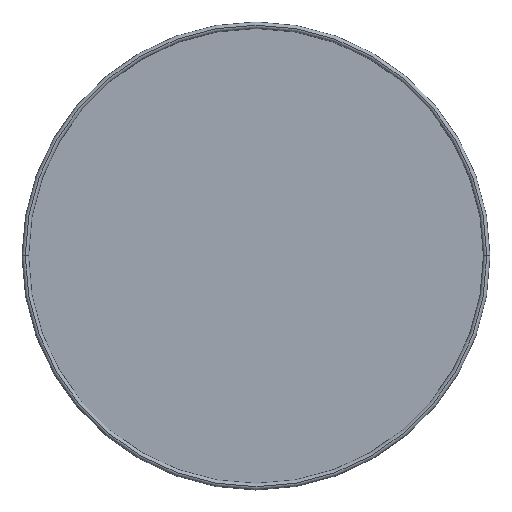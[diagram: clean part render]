
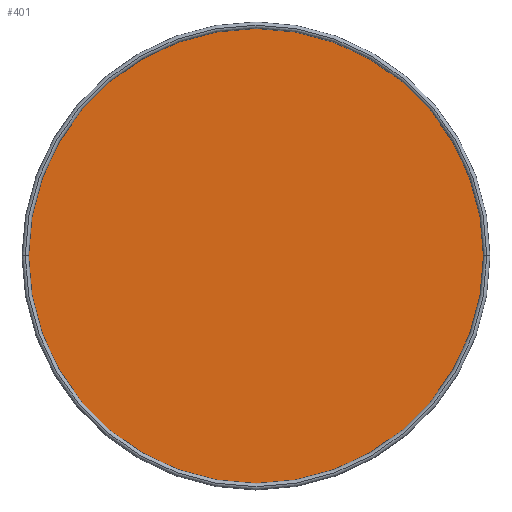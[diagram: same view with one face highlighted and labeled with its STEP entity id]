
A CAD part, top view. The second image highlights one B-rep face of the part: STEP entity #401.
In plain terms, the highlighted planar face has unit normal (0, 0, 1).
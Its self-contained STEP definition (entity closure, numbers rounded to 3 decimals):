
#16 = ORIENTED_EDGE ( 'NONE', *, *, #765, .T. ) ;
#170 = DIRECTION ( 'NONE',  ( 0., 0., 1. ) ) ;
#184 = CARTESIAN_POINT ( 'NONE',  ( 0., 0., 5. ) ) ;
#265 = EDGE_CURVE ( 'NONE', #784, #473, #474, .T. ) ;
#281 = AXIS2_PLACEMENT_3D ( 'NONE', #632, #170, #444 ) ;
#339 = AXIS2_PLACEMENT_3D ( 'NONE', #184, #942, #1052 ) ;
#350 = AXIS2_PLACEMENT_3D ( 'NONE', #723, #707, #798 ) ;
#373 = CIRCLE ( 'NONE', #339, 267.3 ) ;
#401 = ADVANCED_FACE ( 'NONE', ( #1209 ), #1113, .T. ) ;
#444 = DIRECTION ( 'NONE',  ( 1., 0., 0. ) ) ;
#473 = VERTEX_POINT ( 'NONE', #1034 ) ;
#474 = CIRCLE ( 'NONE', #350, 267.3 ) ;
#632 = CARTESIAN_POINT ( 'NONE',  ( 0., 0., 5. ) ) ;
#656 = CARTESIAN_POINT ( 'NONE',  ( -267.3, 0., 5. ) ) ;
#707 = DIRECTION ( 'NONE',  ( 0., 0., 1. ) ) ;
#723 = CARTESIAN_POINT ( 'NONE',  ( 0., 0., 5. ) ) ;
#765 = EDGE_CURVE ( 'NONE', #473, #784, #373, .T. ) ;
#784 = VERTEX_POINT ( 'NONE', #656 ) ;
#798 = DIRECTION ( 'NONE',  ( 1., 0., 0. ) ) ;
#835 = ORIENTED_EDGE ( 'NONE', *, *, #265, .T. ) ;
#855 = EDGE_LOOP ( 'NONE', ( #835, #16 ) ) ;
#942 = DIRECTION ( 'NONE',  ( 0., 0., 1. ) ) ;
#1034 = CARTESIAN_POINT ( 'NONE',  ( 267.3, 0., 5. ) ) ;
#1052 = DIRECTION ( 'NONE',  ( 1., 0., 0. ) ) ;
#1113 = PLANE ( 'NONE',  #281 ) ;
#1209 = FACE_OUTER_BOUND ( 'NONE', #855, .T. ) ;
